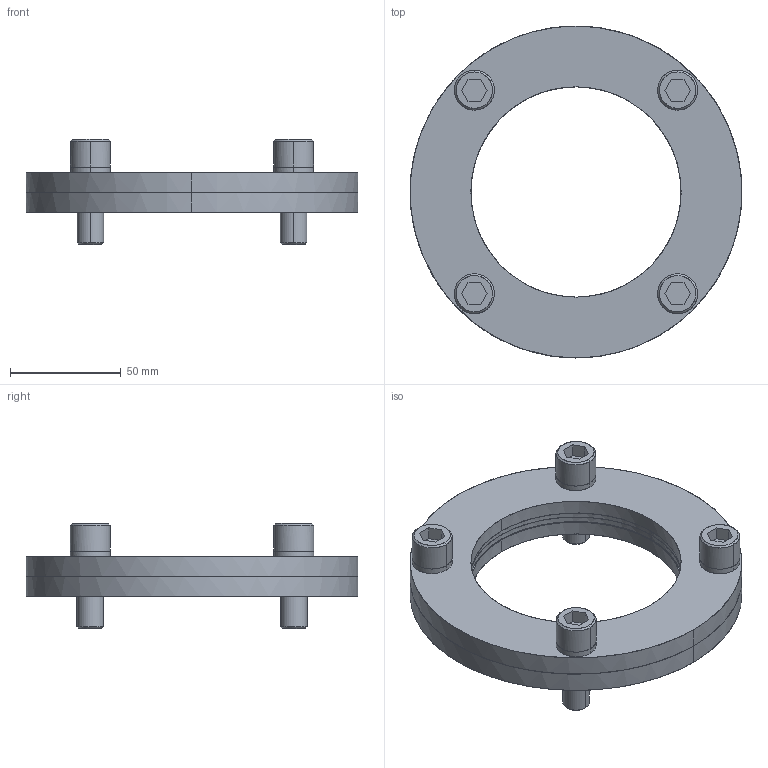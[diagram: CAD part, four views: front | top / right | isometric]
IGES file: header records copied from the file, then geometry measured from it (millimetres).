
Global section: file name: E:\UnigraphicsGraphicData\MISUMI_PRESS-PARTS\IGES\3d_kf95_04237_r00.igs; native system: NX V5.0; preprocessor: UGS NX IGES V5.0; author: MISUMI; date: 20110105.161128; units: millimetre
Bounding box: 150 x 150 x 47.5 mm (x, y, z)
Surface area: 69755 mm2 (no closed solid volume)
Topology: 0 solids, 0 shells, 130 faces, 1024 edges, 1024 vertices
Faces by surface type: bspline 130
